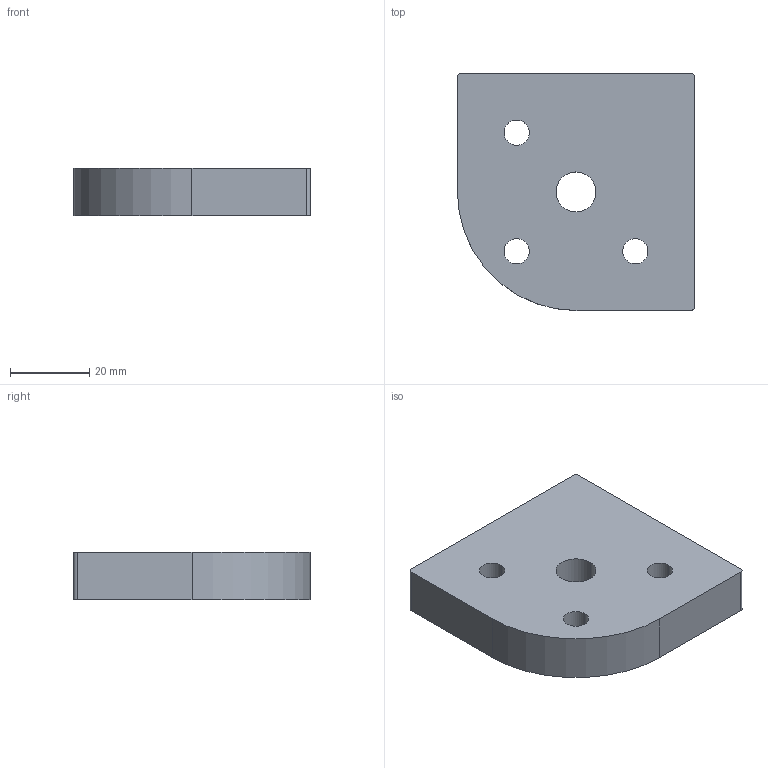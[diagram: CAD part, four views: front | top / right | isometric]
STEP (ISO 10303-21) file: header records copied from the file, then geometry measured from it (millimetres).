
FILE_DESCRIPTION (( 'STEP AP203' ), '1' );
FILE_NAME ('DFB6060R.STEP', '2019-04-18T07:51:43', ( '' ), ( '' ), 'SwSTEP 2.0', 'SolidWorks 2012', '' );
FILE_SCHEMA (( 'CONFIG_CONTROL_DESIGN' ));
Length unit declared in the file: millimetre
Products named in the file (1): DFB6060R
Bounding box: 60 x 60 x 12 mm (x, y, z)
Volume: 37546.9 mm3; surface area: 10551.3 mm2
Topology: 1 solids, 1 shells, 27 faces, 66 edges, 44 vertices
Faces by surface type: cylinder 18, plane 9
Entity records: 909 total; most frequent: DIRECTION 158, CARTESIAN_POINT 138, ORIENTED_EDGE 132, EDGE_CURVE 66, AXIS2_PLACEMENT_3D 64, VERTEX_POINT 44, EDGE_LOOP 38, CIRCLE 36
